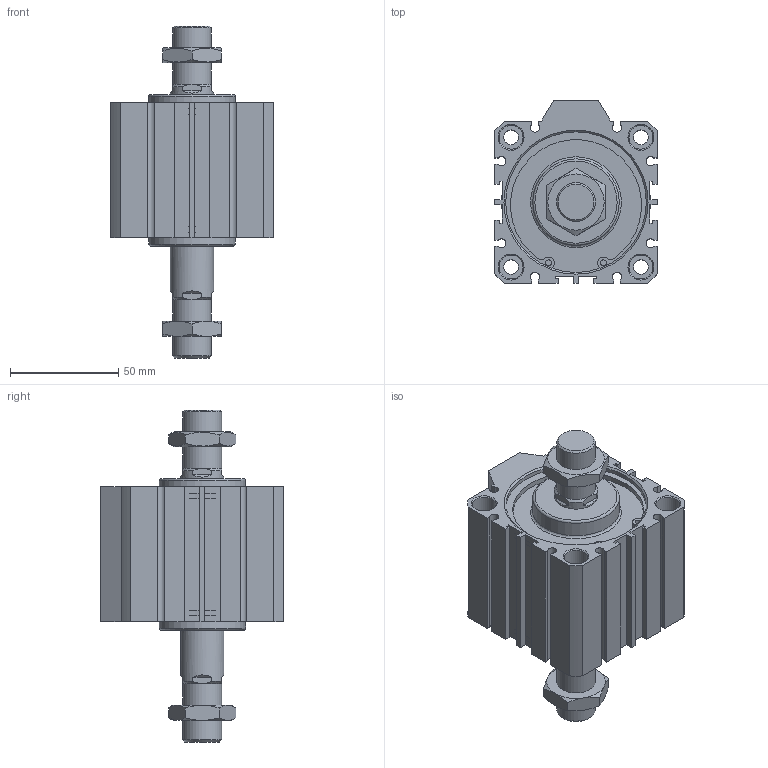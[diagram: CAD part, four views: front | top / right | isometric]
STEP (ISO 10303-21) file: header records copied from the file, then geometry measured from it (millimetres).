
FILE_DESCRIPTION((''),'2;1');
FILE_NAME('I:\3D電子目錄\氣缸\JDD\JDD-BS\JDD63-BS\JDD63x20-BS.stp','2007-02-27T15:17:11',('662F206'),(''),'Autodesk Inventor 10','Autodesk Inventor 10','');
FILE_SCHEMA(('AUTOMOTIVE_DESIGN { 1 0 10303 214 1 1 1 1 }'));
Length unit declared in the file: millimetre
Products named in the file (3): JDD63-BS; R 形環 65
Assembly tree (3 placements, depth 2):
  JDD63-BS
    JDD63-BS
    R 形環 65  x2
Bounding box: 75 x 84.5 x 153.5 mm (x, y, z)
Volume: 348621.7 mm3; surface area: 62161.4 mm2
Topology: 3 solids, 3 shells, 230 faces, 558 edges, 360 vertices
Faces by surface type: plane 132, cylinder 56, cone 38, bspline 2, torus 2
Full cylindrical faces by diameter (mm): 2.7 x4, 3 x2, 6.8 x4, 11 x8, 18 x4, 20 x2, 40 x2, 65 x4, 68 x2
Entity records: 6147 total; most frequent: CARTESIAN_POINT 1216, DIRECTION 1012, ORIENTED_EDGE 936, EDGE_CURVE 468, AXIS2_PLACEMENT_3D 374, VERTEX_POINT 332, EDGE_LOOP 308, VECTOR 264
